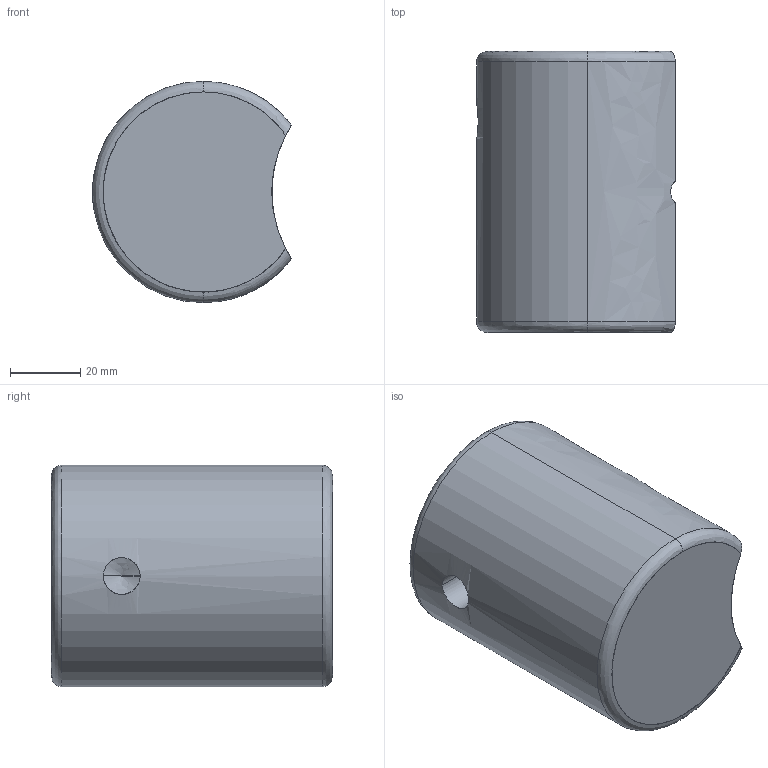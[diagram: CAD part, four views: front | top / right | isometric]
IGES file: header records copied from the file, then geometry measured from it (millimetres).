
Start section: START RECORD GO HERE.
Global section: file name: A518-4.igs; native system: DASSAULT SYSTEMES CATIA V5 R20 - www.3ds.com; preprocessor: CATIA Version 5 Release 20 ; author: Utente; organization: NB04-ASUS; date: 20200412.150000; units: millimetre
Bounding box: 56.61 x 80 x 63 mm (x, y, z)
Surface area: 21469.5 mm2 (no closed solid volume)
Topology: 0 solids, 0 shells, 18 faces, 101 edges, 99 vertices
Faces by surface type: revolution 16, extrusion 2
